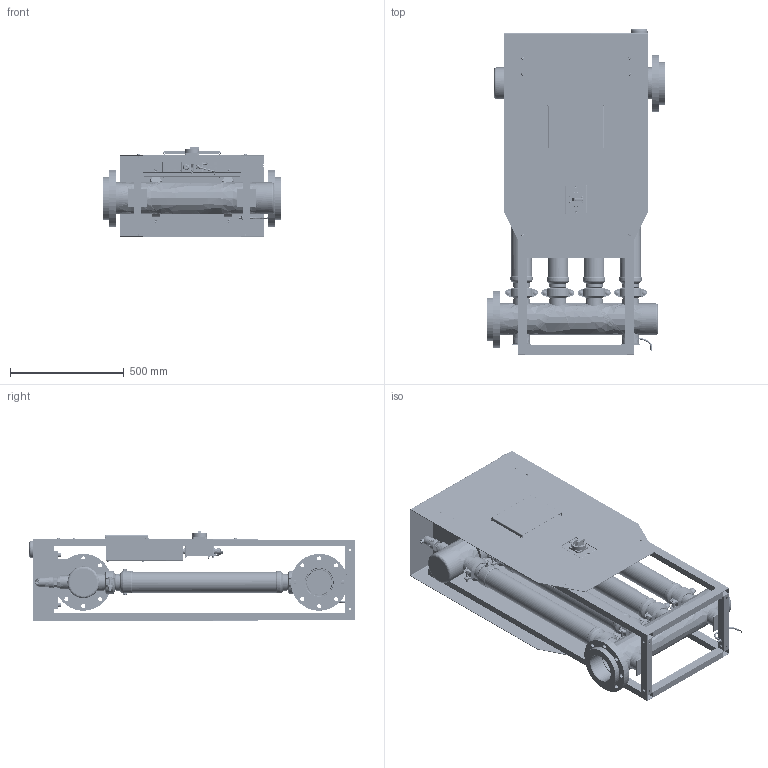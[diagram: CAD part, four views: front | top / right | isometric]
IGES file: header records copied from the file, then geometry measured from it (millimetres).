
Global section: file name: H-A Pro 30-40 M_3D_V1.0; native system: Autodesk Inventor 2024; preprocessor: unknown; author: Massimo Maselli; date: 20241104.113833; units: millimetre
Bounding box: 782 x 1433.28 x 399.8 mm (x, y, z)
Volume: 25879916.8 mm3; surface area: 11739574 mm2
Topology: 171 solids, 171 shells, 10004 faces, 26630 edges, 17681 vertices
Faces by surface type: bspline 10004
